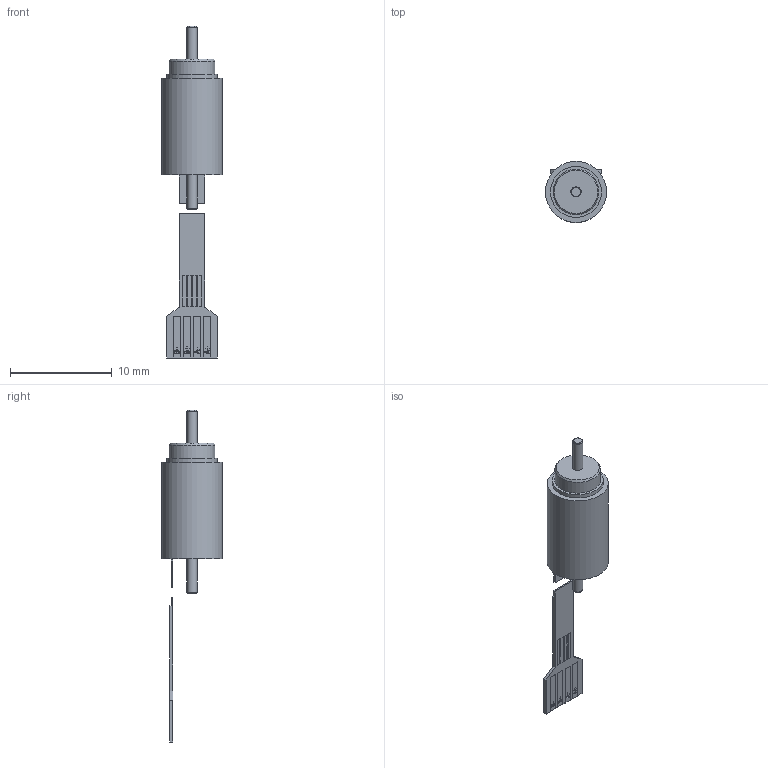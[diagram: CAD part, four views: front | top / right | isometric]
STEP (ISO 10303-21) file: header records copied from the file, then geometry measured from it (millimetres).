
FILE_DESCRIPTION(/* description */ (''),/* implementation_level */ '2;1');
FILE_NAME(/* name */ 'DM0620_30.stp',/* time_stamp */ '2018-11-27T15:43:49+01:00',/* author */ ('DR. FRITZ FAULHABER GmbH & Co. KG'),/* organization */ ('DR. FRITZ FAULHABER GmbH & Co. KG'),/* preprocessor_version */ 'ST-DEVELOPER v16.7',/* originating_system */ 'SIEMENS PLM Software NX 12.0',/* authorisation */ '');
FILE_SCHEMA (('AUTOMOTIVE_DESIGN { 1 0 10303 214 3 1 1 1 }'));
Length unit declared in the file: millimetre
Products named in the file (1): Alle_Motoren
Bounding box: 6 x 6 x 32.65 mm (x, y, z)
Volume: 319.9 mm3; surface area: 402.9 mm2
Topology: 2 solids, 2 shells, 159 faces, 393 edges, 261 vertices
Faces by surface type: plane 133, extrusion 18, cylinder 5, cone 3
Full cylindrical faces by diameter (mm): 1 x2, 4.5 x1, 5 x1, 6 x1
Entity records: 5410 total; most frequent: CARTESIAN_POINT 1628, ORIENTED_EDGE 770, DIRECTION 544, EDGE_CURVE 385, VERTEX_POINT 261, VECTOR 234, LINE 216, EDGE_LOOP 190
